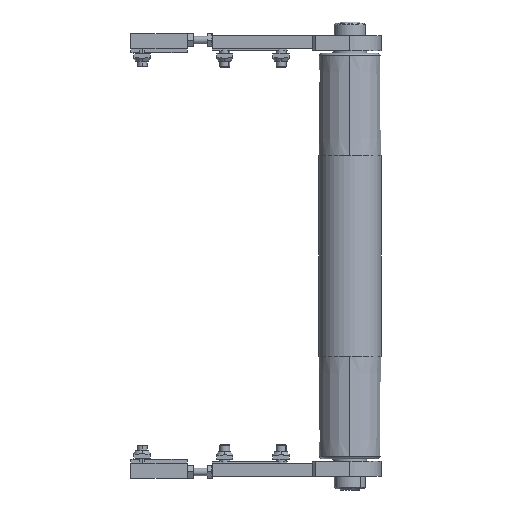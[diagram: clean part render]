
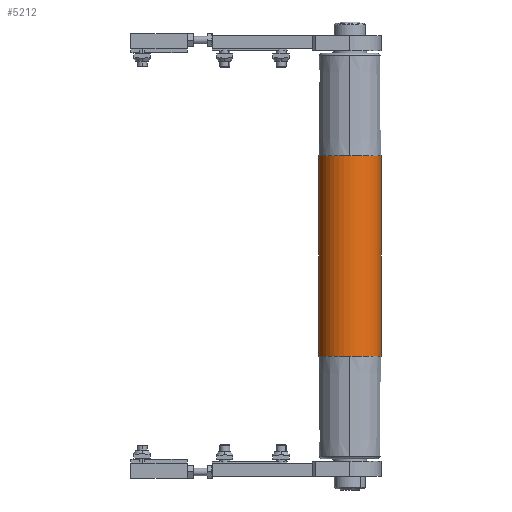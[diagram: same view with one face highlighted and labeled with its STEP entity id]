
A CAD part, front view. The second image highlights one B-rep face of the part: STEP entity #5212.
In plain terms, the highlighted cylindrical face has radius 25 mm (diameter 50 mm), a partial arc.
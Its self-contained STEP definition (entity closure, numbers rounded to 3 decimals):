
#293 = VERTEX_POINT ( 'NONE', #10292 ) ;
#525 = EDGE_LOOP ( 'NONE', ( #6605, #1004, #5164, #6335, #4878, #2590 ) ) ;
#662 = CYLINDRICAL_SURFACE ( 'NONE', #7897, 25. ) ;
#696 = CARTESIAN_POINT ( 'NONE',  ( -80., 0., -25. ) ) ;
#932 = AXIS2_PLACEMENT_3D ( 'NONE', #10448, #2775, #1779 ) ;
#1004 = ORIENTED_EDGE ( 'NONE', *, *, #12121, .T. ) ;
#1116 = VERTEX_POINT ( 'NONE', #10080 ) ;
#1120 = CARTESIAN_POINT ( 'NONE',  ( 80., 0., 0. ) ) ;
#1779 = DIRECTION ( 'NONE',  ( 0., -1., 0. ) ) ;
#1881 = CIRCLE ( 'NONE', #3113, 25. ) ;
#1934 = DIRECTION ( 'NONE',  ( -1., 0., 0. ) ) ;
#1955 = CARTESIAN_POINT ( 'NONE',  ( 160., 0., 0. ) ) ;
#2146 = VERTEX_POINT ( 'NONE', #3061 ) ;
#2475 = DIRECTION ( 'NONE',  ( -1., 0., 0. ) ) ;
#2590 = ORIENTED_EDGE ( 'NONE', *, *, #5482, .F. ) ;
#2775 = DIRECTION ( 'NONE',  ( -1., 0., 0. ) ) ;
#3061 = CARTESIAN_POINT ( 'NONE',  ( 80., 25., 0. ) ) ;
#3113 = AXIS2_PLACEMENT_3D ( 'NONE', #8731, #7856, #11608 ) ;
#3437 = EDGE_CURVE ( 'NONE', #293, #9724, #6351, .T. ) ;
#3630 = AXIS2_PLACEMENT_3D ( 'NONE', #11346, #9484, #8441 ) ;
#3957 = DIRECTION ( 'NONE',  ( -1., 0., 0. ) ) ;
#4706 = AXIS2_PLACEMENT_3D ( 'NONE', #1120, #7011, #7047 ) ;
#4802 = FACE_OUTER_BOUND ( 'NONE', #525, .T. ) ;
#4878 = ORIENTED_EDGE ( 'NONE', *, *, #5204, .F. ) ;
#4928 = CARTESIAN_POINT ( 'NONE',  ( 160., 0., -25. ) ) ;
#4932 = LINE ( 'NONE', #6348, #12352 ) ;
#5164 = ORIENTED_EDGE ( 'NONE', *, *, #3437, .T. ) ;
#5204 = EDGE_CURVE ( 'NONE', #1116, #9712, #1881, .T. ) ;
#5212 = ADVANCED_FACE ( 'NONE', ( #4802 ), #662, .T. ) ;
#5482 = EDGE_CURVE ( 'NONE', #6115, #1116, #4932, .T. ) ;
#5831 = CIRCLE ( 'NONE', #4706, 25. ) ;
#6115 = VERTEX_POINT ( 'NONE', #6627 ) ;
#6335 = ORIENTED_EDGE ( 'NONE', *, *, #11916, .F. ) ;
#6348 = CARTESIAN_POINT ( 'NONE',  ( 160., 0., 25. ) ) ;
#6351 = LINE ( 'NONE', #4928, #9383 ) ;
#6605 = ORIENTED_EDGE ( 'NONE', *, *, #11843, .T. ) ;
#6627 = CARTESIAN_POINT ( 'NONE',  ( 80., 0., 25. ) ) ;
#7011 = DIRECTION ( 'NONE',  ( -1., 0., 0. ) ) ;
#7047 = DIRECTION ( 'NONE',  ( 0., -1., 0. ) ) ;
#7856 = DIRECTION ( 'NONE',  ( -1., 0., 0. ) ) ;
#7897 = AXIS2_PLACEMENT_3D ( 'NONE', #1955, #3957, #8693 ) ;
#8441 = DIRECTION ( 'NONE',  ( 0., -1., 0. ) ) ;
#8693 = DIRECTION ( 'NONE',  ( 0., 0., 1. ) ) ;
#8731 = CARTESIAN_POINT ( 'NONE',  ( -80., 0., 0. ) ) ;
#9154 = CIRCLE ( 'NONE', #3630, 25. ) ;
#9383 = VECTOR ( 'NONE', #1934, 1000. ) ;
#9469 = CIRCLE ( 'NONE', #932, 25. ) ;
#9484 = DIRECTION ( 'NONE',  ( -1., 0., 0. ) ) ;
#9712 = VERTEX_POINT ( 'NONE', #11497 ) ;
#9724 = VERTEX_POINT ( 'NONE', #696 ) ;
#10080 = CARTESIAN_POINT ( 'NONE',  ( -80., 0., 25. ) ) ;
#10292 = CARTESIAN_POINT ( 'NONE',  ( 80., 0., -25. ) ) ;
#10448 = CARTESIAN_POINT ( 'NONE',  ( -80., 0., 0. ) ) ;
#11346 = CARTESIAN_POINT ( 'NONE',  ( 80., 0., 0. ) ) ;
#11497 = CARTESIAN_POINT ( 'NONE',  ( -80., 25., 0. ) ) ;
#11608 = DIRECTION ( 'NONE',  ( 0., -1., 0. ) ) ;
#11843 = EDGE_CURVE ( 'NONE', #6115, #2146, #9154, .T. ) ;
#11916 = EDGE_CURVE ( 'NONE', #9712, #9724, #9469, .T. ) ;
#12121 = EDGE_CURVE ( 'NONE', #2146, #293, #5831, .T. ) ;
#12352 = VECTOR ( 'NONE', #2475, 1000. ) ;
